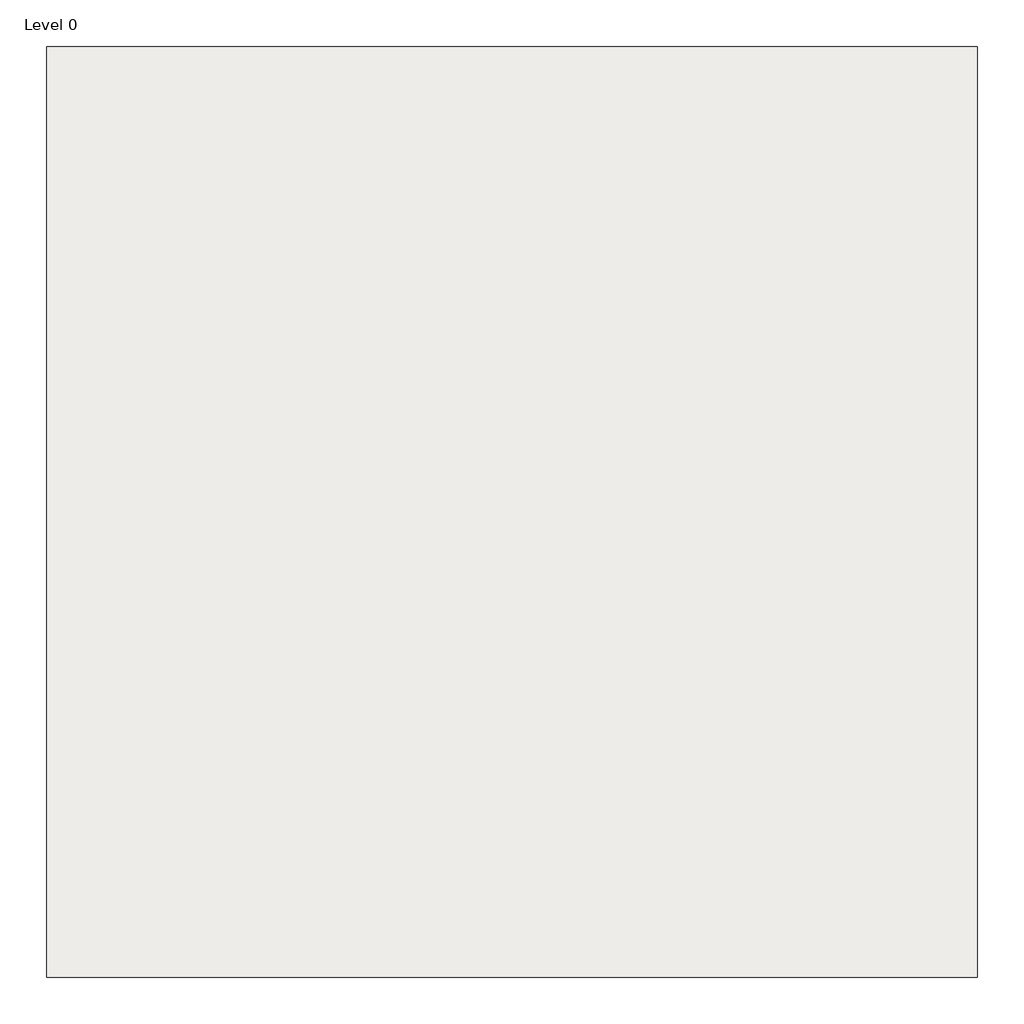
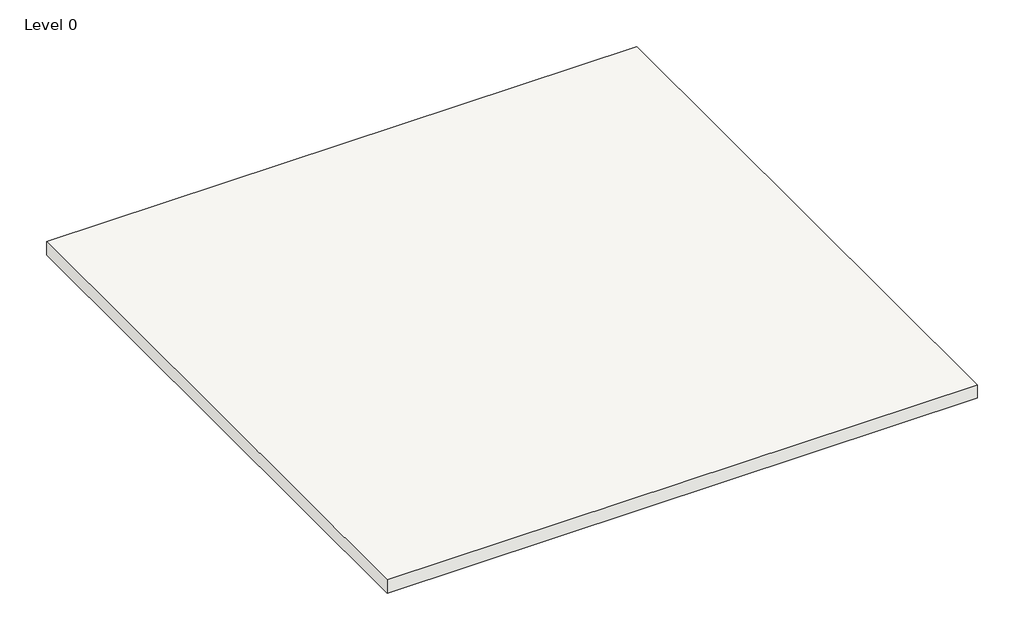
# One storey: 1 slab.
"""IFC4 building model written with IfcOpenShell, lengths in millimetres."""

import ifcopenshell
import ifcopenshell.guid

model = None  # the IFC model being written
_history = None  # IfcOwnerHistory: only IFC2X3 demands one
_inside = {}  # id of a spatial element -> (the spatial element, [elements in it])
_under = {}  # id of a project, library or spatial element -> (it, [spatial elements below it])
_declared = {}  # id of a project -> (the project, [libraries it declares])
_typed = {}  # id of a type object -> (the type object, [elements of that type])
_made_of = {}  # id of a material, layer set ... -> (it, [elements and type objects made of it])


def new_model(schema):
    """Start an empty IFC model of exactly this schema.

    Asked for "IFC4X3", IfcOpenShell would pick the latest addendum, in which some entities
    have other attributes; the version numbers below select the first issue.
    IFC2X3 requires an IfcOwnerHistory on every rooted entity: one is made here for all.
    """
    global model, _history
    if schema == "IFC4X3":
        model = ifcopenshell.file(schema_version=(4, 3, 0, 0))
    else:
        model = ifcopenshell.file(schema=schema)
    _inside.clear()
    _under.clear()
    _declared.clear()
    _typed.clear()
    _made_of.clear()
    _history = None
    if model.schema == "IFC2X3":
        org = make("IfcOrganization", Name="unknown")
        user = make(
            "IfcPersonAndOrganization",
            ThePerson=make("IfcPerson", FamilyName="unknown"),
            TheOrganization=org,
        )
        app = make(
            "IfcApplication",
            ApplicationDeveloper=org,
            Version="unknown",
            ApplicationFullName="unknown",
            ApplicationIdentifier="unknown",
        )
        _history = make(
            "IfcOwnerHistory",
            OwningUser=user,
            OwningApplication=app,
            ChangeAction="ADDED",
            CreationDate=0,
        )
    return model


def make(cls, **values):
    """One entity of the class cls with the attributes given. An attribute that is None is left unset."""
    return model.create_entity(
        cls, **{name: value for name, value in values.items() if value is not None}
    )


def rooted(cls, **values):
    """An entity with a GlobalId (a new one), such as an element, a storey or a relation."""
    return make(cls, GlobalId=ifcopenshell.guid.new(), OwnerHistory=_history, **values)


def si_unit(unit_type, name, prefix=None):
    """IfcSIUnit, for example si_unit("LENGTHUNIT", "METRE", prefix="MILLI")."""
    return make("IfcSIUnit", UnitType=unit_type, Prefix=prefix, Name=name)


def assignment(units):
    """IfcUnitAssignment: the units of a project."""
    return None if units is None else make("IfcUnitAssignment", Units=units)


def point(xyz):
    """IfcCartesianPoint."""
    return None if xyz is None else make("IfcCartesianPoint", Coordinates=xyz)


def direction(xyz):
    """IfcDirection."""
    return None if xyz is None else make("IfcDirection", DirectionRatios=xyz)


def frame(location, z_axis=None, x_axis=None):
    """IfcAxis2Placement3D, a coordinate frame: its origin and axes. An axis left out is left unset."""
    return make(
        "IfcAxis2Placement3D",
        Location=point(location),
        Axis=direction(z_axis),
        RefDirection=direction(x_axis),
    )


def origin():
    """The frame at (0, 0, 0) with its axes left unset."""
    return frame((0.0, 0.0, 0.0))


def origin_with_axes():
    """The frame at (0, 0, 0) with the z axis (0, 0, 1) and the x axis (1, 0, 0) written out."""
    return frame((0.0, 0.0, 0.0), z_axis=(0.0, 0.0, 1.0), x_axis=(1.0, 0.0, 0.0))


def place(relative_to, where):
    """IfcLocalPlacement: puts the frame where relative to a parent placement (None: the world)."""
    return make(
        "IfcLocalPlacement", PlacementRelTo=relative_to, RelativePlacement=where
    )


def context(
    kind, dimensions, precision=None, world=None, true_north=None, identifier=None
):
    """IfcGeometricRepresentationContext, for example the 3D "Model" context."""
    return make(
        "IfcGeometricRepresentationContext",
        ContextIdentifier=identifier,
        ContextType=kind,
        CoordinateSpaceDimension=dimensions,
        Precision=precision,
        WorldCoordinateSystem=world,
        TrueNorth=true_north,
    )


def project(units=None, contexts=None):
    """IfcProject with its units and contexts."""
    return rooted(
        "IfcProject",
        Name="project",
        RepresentationContexts=contexts,
        UnitsInContext=assignment(units),
    )


def spatial(cls, under=None, at=None, **own):
    """A site, building, storey or space (cls), placed at a placement, below another one or the project."""
    s = rooted(cls, ObjectPlacement=at, **own)
    if under is not None:
        _under.setdefault(under.id(), (under, []))[1].append(s)
    return s


def polyline(points):
    """IfcPolyline through the points."""
    return make("IfcPolyline", Points=[point(p) for p in points])


def outline(outer, holes=None, kind="AREA"):
    """IfcArbitraryClosedProfileDef: a profile drawn as a closed curve; with holes, ...WithVoids."""
    if holes is None:
        return make("IfcArbitraryClosedProfileDef", ProfileType=kind, OuterCurve=outer)
    return make(
        "IfcArbitraryProfileDefWithVoids",
        ProfileType=kind,
        OuterCurve=outer,
        InnerCurves=holes,
    )


def extrude(swept, where, along, depth):
    """IfcExtrudedAreaSolid: the profile swept, set in the frame where, extruded along a direction by depth."""
    return make(
        "IfcExtrudedAreaSolid",
        SweptArea=swept,
        Position=where,
        ExtrudedDirection=direction(along),
        Depth=depth,
    )


def shape(context_of_items, identifier, shape_type, items):
    """IfcShapeRepresentation: the items that make up one representation, for example the "Body"."""
    return make(
        "IfcShapeRepresentation",
        ContextOfItems=context_of_items,
        RepresentationIdentifier=identifier,
        RepresentationType=shape_type,
        Items=items,
    )


def made_of(thing, what):
    """Note that an element or type object is made of a material, layer set ...; save() writes the relation."""
    if what is not None:
        _made_of.setdefault(what.id(), (what, []))[1].append(thing)
    return thing


def element(
    cls,
    number,
    at=None,
    inside=None,
    cuts=None,
    type_object=None,
    material=None,
    context=None,
    identifier="Body",
    shape_type=None,
    held_by="IfcProductDefinitionShape",
    body=None,
    shapes=None,
    **own,
):
    """One element of the class cls, such as IfcWall. Its Tag is "e" and its number.

    at: its placement. inside: the storey or other place that contains it. cuts: it is an
    opening in that element (IfcRelVoidsElement). A single representation is given by context,
    identifier, shape_type and body (its items); several are given by shapes. held_by: the class
    of the entity that holds the representations. save() writes the other relations.
    """
    e = rooted(cls, Tag="e%d" % number, ObjectPlacement=at, **own)
    if body is not None:
        shapes = [shape(context, identifier, shape_type, body)]
    if shapes is not None:
        e.Representation = make(held_by, Representations=shapes)
    if inside is not None:
        _inside.setdefault(inside.id(), (inside, []))[1].append(e)
    if cuts is not None:
        rooted(
            "IfcRelVoidsElement", RelatingBuildingElement=cuts, RelatedOpeningElement=e
        )
    if type_object is not None:
        _typed.setdefault(type_object.id(), (type_object, []))[1].append(e)
    return made_of(e, material)


def aggregate(whole, parts):
    """IfcRelAggregates: a whole, such as a stair, and the parts it consists of."""
    return rooted("IfcRelAggregates", RelatingObject=whole, RelatedObjects=parts)


def save(model, path):
    """Write the relations noted so far, then the file.

    IfcRelAggregates (storeys below a building ...), IfcRelContainedInSpatialStructure (elements
    in a storey), IfcRelDefinesByType, IfcRelAssociatesMaterial and IfcRelDeclares: one each for
    every whole, place, type object, material and project.
    """
    for whole, parts in _under.values():
        aggregate(whole, parts)
    for where, things in _inside.values():
        rooted(
            "IfcRelContainedInSpatialStructure",
            RelatedElements=things,
            RelatingStructure=where,
        )
    for kind, things in _typed.values():
        rooted("IfcRelDefinesByType", RelatedObjects=things, RelatingType=kind)
    for what, things in _made_of.values():
        rooted("IfcRelAssociatesMaterial", RelatedObjects=things, RelatingMaterial=what)
    for by, libraries in _declared.values():
        rooted("IfcRelDeclares", RelatingContext=by, RelatedDefinitions=libraries)
    model.write(path)


model = new_model("IFC4")

# Units and contexts
model_context = context("Model", 3, world=origin())
ifc_project = project(units=[si_unit("LENGTHUNIT", "METRE", prefix="MILLI")], contexts=[model_context])

# Site, building, storey
site = spatial("IfcSite", under=ifc_project)
building = spatial("IfcBuilding", under=site)
storey = spatial("IfcBuildingStorey", under=building, Name="Level 0", Elevation=0.0)

# Slab
placement = place(None, origin())
element("IfcSlab", 1, ObjectType="NBS_IKOPLC_ReinforcedBitumenMembraneInvertedRoofCoveringSystems_IKOPermatecEcowrap", at=placement, inside=storey, context=model_context, shape_type="SweptSolid", body=[
    extrude(outline(polyline([(0.0, -2500.0), (0.0, 0.0), (2500.0, 0.0), (2500.0, -2500.0), (0.0, -2500.0)])), origin_with_axes(), (0.0, 0.0, 1.0), 58.8),
])

save(model, "model.ifc")
